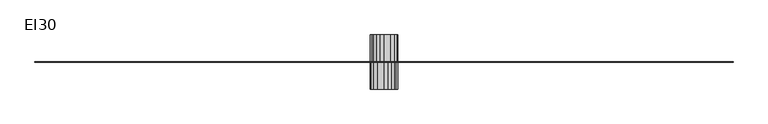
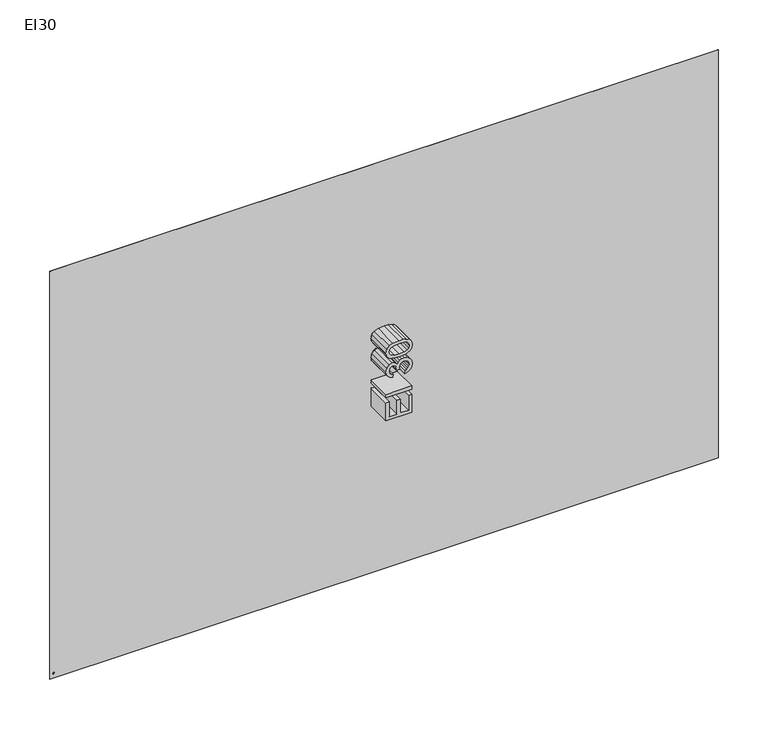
"""IFC4 building model written with IfcOpenShell, lengths in millimetres: proxy geometry, Fire_FireCompartmentationEI : EI30."""

from ifc_helpers import new_model, si_unit, point, frame, frame_2d, origin, origin_with_axes, place, context, project, spatial, polyline, circle_curve, trimmed, segment, composite_curve, outline, extrude, source, transform, mapped, element, save


def ei30_c44ad735(model_context):
    return source(origin(), model_context, "Body", "SweptSolid", [
        extrude(outline(polyline([(3872.2538389, -0.5), (0.0, -0.5), (0.0, 0.5), (3872.2538389, 0.5), (3872.2538389, -0.5)])), origin_with_axes(), (0.0, 0.0, 1.0), 2500.0),
        extrude(outline(composite_curve([segment(trimmed(circle_curve(frame_2d((28.9488523, 20.9372462)), 4.3000253), [point((27.7936078, 25.0791815))], [point((29.724042, 25.1668205))], False, "CARTESIAN"), True, "CONTINUOUS"), segment(trimmed(circle_curve(frame_2d((29.6833004, 19.2917407)), 5.875221), [point((29.724042, 25.1668205))], [point((32.6283278, 24.3755421))], False, "CARTESIAN"), True, "CONTINUOUS"), segment(trimmed(circle_curve(frame_2d((32.8576867, 20.8662932)), 3.5167361), [point((32.6283278, 24.3755421))], [point((30.6249304, 23.5833197))], True, "CARTESIAN"), True, "CONTINUOUS"), segment(trimmed(circle_curve(frame_2d((10.876956, 53.8348059)), 36.1266511), [point((30.6249304, 23.5833197))], [point((25.8949704, 20.9776277))], False, "CARTESIAN"), True, "CONTINUOUS"), segment(trimmed(circle_curve(frame_2d((21.9041848, 33.757735)), 13.3887083), [point((25.8949704, 20.9776277))], [point((22.6832699, 20.3917132))], False, "CARTESIAN"), True, "CONTINUOUS"), segment(trimmed(circle_curve(frame_2d((20.9508608, 39.8789486)), 19.5640891), [point((22.6832699, 20.3917132))], [point((20.0109811, 20.3374489))], False, "CARTESIAN"), True, "CONTINUOUS"), segment(trimmed(circle_curve(frame_2d((18.2722891, 30.1747881)), 9.9898094), [point((20.0109811, 20.3374489))], [point((25.2489423, 23.0247809))], True, "CARTESIAN"), True, "CONTINUOUS"), segment(trimmed(circle_curve(frame_2d((30.9774835, 18.5323372)), 7.2799887), [point((25.2489423, 23.0247809))], [point((27.7936078, 25.0791815))], False, "CARTESIAN"), True, "CONTINUOUS")], self_intersect=False)), frame((0.0, -0.6, 0.0), z_axis=(0.0, 1.0, 0.0), x_axis=(0.0, 0.0, 1.0)), (0.0, 0.0, 1.0), 1.2),
        extrude(outline(composite_curve([segment(trimmed(circle_curve(frame_2d((34.8553456, 17.4656787)), 4.3823741), [point((35.4675373, 21.8050824))], [point((32.7666638, 21.3182897))], True, "CARTESIAN"), True, "CONTINUOUS"), segment(trimmed(circle_curve(frame_2d((31.0348418, 25.2412811)), 4.2882478), [point((32.7666638, 21.3182897))], [point((31.0556823, 20.9530839))], False, "CARTESIAN"), True, "CONTINUOUS"), segment(trimmed(circle_curve(frame_2d((30.8661112, 26.3534755)), 5.4037178), [point((31.0556823, 20.9530839))], [point((28.4262544, 21.5319337))], False, "CARTESIAN"), True, "CONTINUOUS"), segment(trimmed(circle_curve(frame_2d((28.9867579, 26.8058524)), 5.3036197), [point((28.4262544, 21.5319337))], [point((30.6443727, 21.7679267))], True, "CARTESIAN"), True, "CONTINUOUS"), segment(trimmed(circle_curve(frame_2d((33.7648144, 18.2895153)), 4.6729544), [point((30.6443727, 21.7679267))], [point((32.5632515, 22.8053485))], False, "CARTESIAN"), True, "CONTINUOUS"), segment(trimmed(circle_curve(frame_2d((33.1708117, 19.8529583)), 3.0142556), [point((32.5632515, 22.8053485))], [point((35.4675373, 21.8050824))], False, "CARTESIAN"), True, "CONTINUOUS")], self_intersect=False)), frame((0.0, -0.6, 0.0), z_axis=(0.0, 1.0, 0.0), x_axis=(0.0, 0.0, 1.0)), (0.0, 0.0, 1.0), 1.2),
        extrude(outline(composite_curve([segment(trimmed(circle_curve(frame_2d((26.35828, 17.8501973)), 2.1465167), [point((27.6612009, 19.5560492))], [point((26.6135063, 19.9814864))], True, "CARTESIAN"), True, "CONTINUOUS"), segment(trimmed(circle_curve(frame_2d((25.771558, 13.6747037)), 6.3627341), [point((26.6135063, 19.9814864))], [point((25.1811141, 20.0099828))], True, "CARTESIAN"), True, "CONTINUOUS"), segment(trimmed(circle_curve(frame_2d((27.6708438, 15.0485986)), 5.5510437), [point((25.1811141, 20.0099828))], [point((27.8117089, 20.5978547))], False, "CARTESIAN"), True, "CONTINUOUS"), segment(trimmed(circle_curve(frame_2d((27.9681735, 17.2267436)), 3.3747401), [point((27.8117089, 20.5978547))], [point((29.507487, 20.2299728))], False, "CARTESIAN"), True, "CONTINUOUS"), segment(trimmed(circle_curve(frame_2d((31.5381431, 23.6896238)), 4.0115769), [point((29.507487, 20.2299728))], [point((32.2223971, 19.7368341))], True, "CARTESIAN"), True, "CONTINUOUS"), segment(trimmed(circle_curve(frame_2d((29.9256715, 21.6889582)), 3.0142556), [point((32.2223971, 19.7368341))], [point((29.3181113, 18.736568))], False, "CARTESIAN"), True, "CONTINUOUS"), segment(trimmed(circle_curve(frame_2d((30.5170043, 23.2454076)), 4.6655095), [point((29.3181113, 18.736568))], [point((27.6612009, 19.5560492))], False, "CARTESIAN"), True, "CONTINUOUS")], self_intersect=False)), frame((0.0, -0.6, 0.0), z_axis=(0.0, 1.0, 0.0), x_axis=(0.0, 0.0, 1.0)), (0.0, 0.0, 1.0), 1.2),
        extrude(outline(composite_curve([segment(trimmed(circle_curve(frame_2d((32.8467056, 19.4711557)), 3.5167361), [point((30.6139493, 16.7541292))], [point((32.6173467, 15.9619068))], True, "CARTESIAN"), True, "CONTINUOUS"), segment(trimmed(circle_curve(frame_2d((29.6723193, 21.0457082)), 5.875221), [point((32.6173467, 15.9619068))], [point((29.7130609, 15.1706284))], False, "CARTESIAN"), True, "CONTINUOUS"), segment(trimmed(circle_curve(frame_2d((28.9378712, 19.4002026)), 4.3000253), [point((29.7130609, 15.1706284))], [point((27.7826267, 15.2582674))], False, "CARTESIAN"), True, "CONTINUOUS"), segment(trimmed(circle_curve(frame_2d((30.9665024, 21.8051117)), 7.2799887), [point((27.7826267, 15.2582674))], [point((25.2379612, 17.312668))], False, "CARTESIAN"), True, "CONTINUOUS"), segment(trimmed(circle_curve(frame_2d((18.261308, 10.1626608)), 9.9898094), [point((25.2379612, 17.312668))], [point((20.0, 20.0))], True, "CARTESIAN"), True, "CONTINUOUS"), segment(trimmed(circle_curve(frame_2d((20.9398797, 0.4585003)), 19.5640891), [point((20.0, 20.0))], [point((22.6722888, 19.9457357))], False, "CARTESIAN"), True, "CONTINUOUS"), segment(trimmed(circle_curve(frame_2d((21.8932037, 6.5797139)), 13.3887083), [point((22.6722888, 19.9457357))], [point((25.8839893, 19.3598212))], False, "CARTESIAN"), True, "CONTINUOUS"), segment(trimmed(circle_curve(frame_2d((10.8659749, -13.497357)), 36.1266511), [point((25.8839893, 19.3598212))], [point((30.6139493, 16.7541292))], False, "CARTESIAN"), True, "CONTINUOUS")], self_intersect=False)), frame((0.0, -0.6, 0.0), z_axis=(0.0, 1.0, 0.0), x_axis=(0.0, 0.0, 1.0)), (0.0, 0.0, 1.0), 1.2),
        extrude(outline(polyline([(1022.7960798, 1861.1269195), (1022.7960798, 2011.8113847), (1131.1005392, 2011.8113847), (1131.1005392, 1992.9758265), (1041.6316379, 1992.9758265), (1041.6316379, 1948.2413759), (1126.3916496, 1948.2413759), (1126.3916496, 1929.4058178), (1041.6316379, 1929.4058178), (1041.6316379, 1879.9624776), (1133.4549839, 1879.9624776), (1133.4549839, 1861.1269195), (1022.7960798, 1861.1269195)])), frame((0.0, 0.0, 0.0), z_axis=(0.0, 1.0, 0.0), x_axis=(0.0, 0.0, 1.0)), (0.0, 0.0, 1.0), 150.0),
        extrude(outline(polyline([(1861.1269195, 150.0), (2011.8113847, 150.0), (2011.8113847, 0.0), (1861.1269195, 0.0), (1861.1269195, 150.0)])), frame((0.0, 0.0, 1164.0627659), z_axis=(0.0, 0.0, 1.0), x_axis=(1.0, 0.0, 0.0)), (0.0, 0.0, 1.0), 18.8355582),
        extrude(outline(polyline([(1272.3672253, 1901.1524805), (1291.2027835, 1903.5069253), (1295.4196308, 1891.6703221), (1301.5954498, 1883.6780858), (1310.0337431, 1879.1255461), (1321.0380133, 1877.6080329), (1333.9506713, 1879.6957632), (1343.9202734, 1885.9589541), (1350.2938289, 1895.3031568), (1352.4183475, 1906.6339223), (1350.312223, 1917.3898721), (1343.9938498, 1926.1132739), (1334.4289179, 1931.8936198), (1322.5831176, 1933.8204017), (1309.376154, 1931.7602625), (1311.4730814, 1950.5958207), (1314.4897138, 1950.3750915), (1335.8636577, 1955.7829568), (1342.9821743, 1962.643956), (1345.3550131, 1972.411223), (1343.6351648, 1980.5460136), (1338.4756198, 1987.1448969), (1330.6029451, 1991.5180941), (1320.7437077, 1992.9758265), (1310.8660761, 1991.5042986), (1302.7910663, 1987.0897146), (1296.8957573, 1979.7320747), (1293.5572282, 1969.4313789), (1274.7216701, 1971.7858236), (1280.2674912, 1988.6991983), (1290.1359257, 2001.3267478), (1303.6371949, 2009.1902255), (1320.0815201, 2011.8113847), (1342.7982333, 2006.6426427), (1358.6907355, 1992.515974), (1364.1905713, 1973.514869), (1358.966647, 1956.1508388), (1343.5156032, 1943.6796392), (1355.3062211, 1938.9155674), (1364.0434185, 1930.8037694), (1369.4512838, 1919.7857036), (1371.2539056, 1906.3028285), (1367.6486621, 1887.9455169), (1356.8329314, 1872.6048377), (1340.5081679, 1862.2305655), (1320.3758257, 1858.7724747), (1302.1656669, 1861.7247277), (1287.3400225, 1870.5814867), (1277.0301296, 1884.1287412), (1272.3672253, 1901.1524805)])), frame((0.0, 0.0, 0.0), z_axis=(0.0, 1.0, 0.0), x_axis=(0.0, 0.0, 1.0)), (0.0, 0.0, 1.0), 150.0),
        extrude(outline(polyline([(1387.735019, 1935.2551415), (1389.119175, 1959.3744048), (1393.271643, 1978.6100346), (1400.1510363, 1993.2563366), (1409.7159682, 2003.6076162), (1422.0354165, 2009.7604426), (1437.1783591, 2011.8113847), (1459.1777025, 2006.9553424), (1474.3712289, 1992.9574324), (1483.2003967, 1970.6637835), (1486.6216993, 1935.2551415), (1485.2513389, 1911.2738339), (1481.1402576, 1892.0841894), (1474.302251, 1877.4240919), (1464.7511147, 1867.0314255), (1452.4040752, 1860.8372124), (1437.1783591, 1858.7724747), (1417.607037, 1862.3593242), (1402.7446044, 1873.1198725), (1391.4874153, 1898.6048977), (1387.735019, 1935.2551415)]), holes=[polyline([(1406.5705771, 1935.2919297), (1408.7778691, 1905.6636335), (1415.399745, 1888.515734), (1425.2589825, 1880.3349581), (1437.1783591, 1877.6080329), (1449.0977358, 1880.3441552), (1458.9569733, 1888.5525222), (1465.5788492, 1905.7096188), (1467.7861411, 1935.2919297), (1465.6524256, 1964.2534398), (1459.2512789, 1981.5346965), (1449.4104355, 1990.115544), (1436.9576299, 1992.9758265), (1425.167012, 1990.4558349), (1415.6940506, 1982.8958599), (1408.8514455, 1964.5385483), (1406.5705771, 1935.2919297)])]), frame((0.0, 0.0, 0.0), z_axis=(0.0, 1.0, 0.0), x_axis=(0.0, 0.0, 1.0)), (0.0, 0.0, 1.0), 150.0),
        extrude(outline(polyline([(1022.7960798, 2011.1269195), (1133.4549839, 2011.1269195), (1133.4549839, 1992.2913613), (1041.6316379, 1992.2913613), (1041.6316379, 1942.8480212), (1126.3916496, 1942.8480212), (1126.3916496, 1924.012463), (1041.6316379, 1924.012463), (1041.6316379, 1879.2780124), (1131.1005392, 1879.2780124), (1131.1005392, 1860.4424542), (1022.7960798, 1860.4424542), (1022.7960798, 2011.1269195)])), frame((0.0, -150.0, 0.0), z_axis=(0.0, 1.0, 0.0), x_axis=(0.0, 0.0, 1.0)), (0.0, 0.0, 1.0), 150.0),
        extrude(outline(polyline([(2011.1269195, -150.0), (1860.4424542, -150.0), (1860.4424542, 0.0), (2011.1269195, 0.0), (2011.1269195, -150.0)])), frame((0.0, 0.0, 1164.0627659), z_axis=(0.0, 0.0, 1.0), x_axis=(1.0, 0.0, 0.0)), (0.0, 0.0, 1.0), 18.8355582),
        extrude(outline(polyline([(1272.3672253, 1971.1013584), (1277.0301296, 1988.1250977), (1287.3400225, 2001.6723522), (1302.1656669, 2010.5291112), (1320.3758257, 2013.4813642), (1340.5081679, 2010.0232735), (1356.8329314, 1999.6490012), (1367.6486621, 1984.308322), (1371.2539056, 1965.9510105), (1369.4512838, 1952.4681353), (1364.0434185, 1941.4500696), (1355.3062211, 1933.3382716), (1343.5156032, 1928.5741998), (1358.966647, 1916.1030001), (1364.1905713, 1898.7389699), (1358.6907355, 1879.7378649), (1342.7982333, 1865.6111963), (1320.0815201, 1860.4424542), (1303.6371949, 1863.0636135), (1290.1359257, 1870.9270911), (1280.2674912, 1883.5546406), (1274.7216701, 1900.4680153), (1293.5572282, 1902.8224601), (1296.8957573, 1892.5217642), (1302.7910663, 1885.1641243), (1310.8660761, 1880.7495404), (1320.7437077, 1879.2780124), (1330.6029451, 1880.7357448), (1338.4756198, 1885.108942), (1343.6351648, 1891.7078253), (1345.3550131, 1899.8426159), (1342.9821743, 1909.6098829), (1335.8636577, 1916.4708821), (1314.4897138, 1921.8787474), (1311.4730814, 1921.6580182), (1309.376154, 1940.4935764), (1322.5831176, 1938.4334372), (1334.4289179, 1940.3602192), (1343.9938498, 1946.140565), (1350.312223, 1954.8639668), (1352.4183475, 1965.6199167), (1350.2938289, 1976.9506821), (1343.9202734, 1986.2948848), (1333.9506713, 1992.5580758), (1321.0380133, 1994.6458061), (1310.0337431, 1993.1282929), (1301.5954498, 1988.5757532), (1295.4196308, 1980.5835168), (1291.2027835, 1968.7469136), (1272.3672253, 1971.1013584)])), frame((0.0, -150.0, 0.0), z_axis=(0.0, 1.0, 0.0), x_axis=(0.0, 0.0, 1.0)), (0.0, 0.0, 1.0), 150.0),
        extrude(outline(polyline([(1387.735019, 1936.9986974), (1391.4874153, 1973.6489412), (1402.7446044, 1999.1339664), (1417.607037, 2009.8945148), (1437.1783591, 2013.4813642), (1452.4040752, 2011.4166265), (1464.7511147, 2005.2224134), (1474.302251, 1994.8297471), (1481.1402576, 1980.1696496), (1485.2513389, 1960.980005), (1486.6216993, 1936.9986974), (1483.2003967, 1901.5900554), (1474.3712289, 1879.2964065), (1459.1777025, 1865.2984966), (1437.1783591, 1860.4424542), (1422.0354165, 1862.4933964), (1409.7159682, 1868.6462227), (1400.1510363, 1878.9975024), (1393.271643, 1893.6438043), (1389.119175, 1912.8794341), (1387.735019, 1936.9986974)]), holes=[polyline([(1406.5705771, 1936.9619092), (1408.8514455, 1907.7152906), (1415.6940506, 1889.3579791), (1425.167012, 1881.7980041), (1436.9576299, 1879.2780124), (1449.4104355, 1882.1382949), (1459.2512789, 1890.7191424), (1465.6524256, 1908.0003992), (1467.7861411, 1936.9619092), (1465.5788492, 1966.5442202), (1458.9569733, 1983.7013167), (1449.0977358, 1991.9096837), (1437.1783591, 1994.6458061), (1425.2589825, 1991.9188808), (1415.399745, 1983.7381049), (1408.7778691, 1966.5902054), (1406.5705771, 1936.9619092)])]), frame((0.0, -150.0, 0.0), z_axis=(0.0, 1.0, 0.0), x_axis=(0.0, 0.0, 1.0)), (0.0, 0.0, 1.0), 150.0),
    ])


if __name__ == "__main__":
    model = new_model("IFC4")
    model_context = context("Model", 3, world=origin())
    ifc_project = project(units=[si_unit("LENGTHUNIT", "METRE", prefix="MILLI")], contexts=[model_context])
    site = spatial("IfcSite", under=ifc_project)
    building = spatial("IfcBuilding", under=site)
    placement = place(None, origin())
    ei30_shape = ei30_c44ad735(model_context)
    element("IfcBuildingElementProxy", 1, Name="Fire_FireCompartmentationEI : EI30", ObjectType="Fire_FireCompartmentationEI : EI30", at=placement, inside=building, context=model_context, shape_type="MappedRepresentation", body=[
        mapped(ei30_shape, transform((0.0, 0.0, 0.0), x_axis=(1.0, 0.0, 0.0), y_axis=(0.0, 1.0, 0.0), z_axis=(0.0, 0.0, 1.0))),
    ])
    save(model, "model.ifc")
